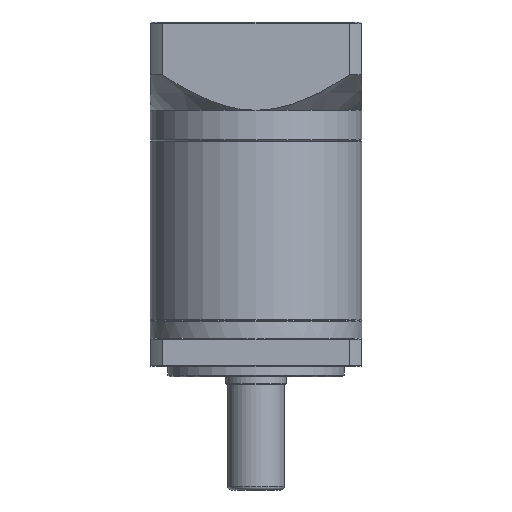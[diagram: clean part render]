
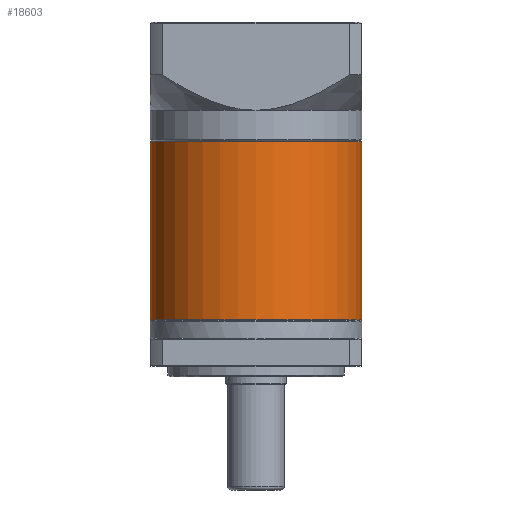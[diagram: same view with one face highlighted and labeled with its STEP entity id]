
A CAD part, front view. The second image highlights one B-rep face of the part: STEP entity #18603.
In plain terms, the highlighted cylindrical face has radius 30 mm (diameter 60 mm), a partial arc.
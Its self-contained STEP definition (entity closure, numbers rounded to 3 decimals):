
#7560 = DIRECTION ( 'NONE',  ( 0., 0., -1. ) ) ;
#7943 = CARTESIAN_POINT ( 'NONE',  ( -62.968, 26.169, -40.242 ) ) ;
#12382 = CIRCLE ( 'NONE', #76225, 30. ) ;
#15953 = DIRECTION ( 'NONE',  ( 0., 0., -1. ) ) ;
#17857 = CARTESIAN_POINT ( 'NONE',  ( -62.968, 26.169, -90.792 ) ) ;
#18603 = ADVANCED_FACE ( 'NONE', ( #98384 ), #44658, .T. ) ;
#19800 = DIRECTION ( 'NONE',  ( 0., 0., -1. ) ) ;
#22046 = CIRCLE ( 'NONE', #74851, 30. ) ;
#26296 = LINE ( 'NONE', #60723, #85011 ) ;
#26890 = VECTOR ( 'NONE', #15953, 1000. ) ;
#26897 = VERTEX_POINT ( 'NONE', #29877 ) ;
#29877 = CARTESIAN_POINT ( 'NONE',  ( -2.968, 26.169, -90.792 ) ) ;
#29952 = DIRECTION ( 'NONE',  ( -1., 0., 0. ) ) ;
#30998 = DIRECTION ( 'NONE',  ( 0., 0., 1. ) ) ;
#32841 = EDGE_LOOP ( 'NONE', ( #85768, #55951, #43679, #70672 ) ) ;
#38004 = CARTESIAN_POINT ( 'NONE',  ( -62.968, 26.169, -40.492 ) ) ;
#38330 = CARTESIAN_POINT ( 'NONE',  ( -32.968, 26.169, -90.792 ) ) ;
#43679 = ORIENTED_EDGE ( 'NONE', *, *, #47237, .T. ) ;
#44658 = CYLINDRICAL_SURFACE ( 'NONE', #83408, 30. ) ;
#46990 = CARTESIAN_POINT ( 'NONE',  ( -32.968, 26.169, -40.242 ) ) ;
#47237 = EDGE_CURVE ( 'NONE', #98338, #59262, #89294, .T. ) ;
#49406 = VERTEX_POINT ( 'NONE', #52980 ) ;
#50845 = DIRECTION ( 'NONE',  ( 1., 0., 0. ) ) ;
#52980 = CARTESIAN_POINT ( 'NONE',  ( -2.968, 26.169, -40.492 ) ) ;
#54677 = DIRECTION ( 'NONE',  ( 1., 0., 0. ) ) ;
#55547 = EDGE_CURVE ( 'NONE', #49406, #26897, #26296, .T. ) ;
#55951 = ORIENTED_EDGE ( 'NONE', *, *, #77968, .T. ) ;
#59262 = VERTEX_POINT ( 'NONE', #17857 ) ;
#60723 = CARTESIAN_POINT ( 'NONE',  ( -2.968, 26.169, -40.242 ) ) ;
#66625 = CARTESIAN_POINT ( 'NONE',  ( -32.968, 26.169, -40.492 ) ) ;
#68762 = DIRECTION ( 'NONE',  ( 0., 0., -1. ) ) ;
#70672 = ORIENTED_EDGE ( 'NONE', *, *, #72297, .T. ) ;
#72297 = EDGE_CURVE ( 'NONE', #59262, #26897, #22046, .T. ) ;
#74851 = AXIS2_PLACEMENT_3D ( 'NONE', #38330, #30998, #54677 ) ;
#76225 = AXIS2_PLACEMENT_3D ( 'NONE', #66625, #19800, #50845 ) ;
#77968 = EDGE_CURVE ( 'NONE', #49406, #98338, #12382, .T. ) ;
#83408 = AXIS2_PLACEMENT_3D ( 'NONE', #46990, #7560, #29952 ) ;
#85011 = VECTOR ( 'NONE', #68762, 1000. ) ;
#85768 = ORIENTED_EDGE ( 'NONE', *, *, #55547, .F. ) ;
#89294 = LINE ( 'NONE', #7943, #26890 ) ;
#98338 = VERTEX_POINT ( 'NONE', #38004 ) ;
#98384 = FACE_OUTER_BOUND ( 'NONE', #32841, .T. ) ;
